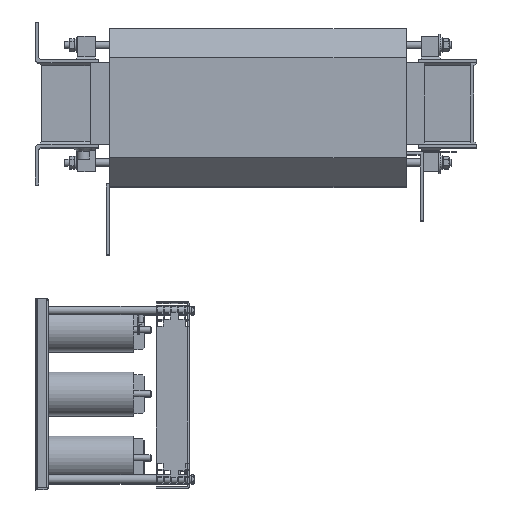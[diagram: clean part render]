
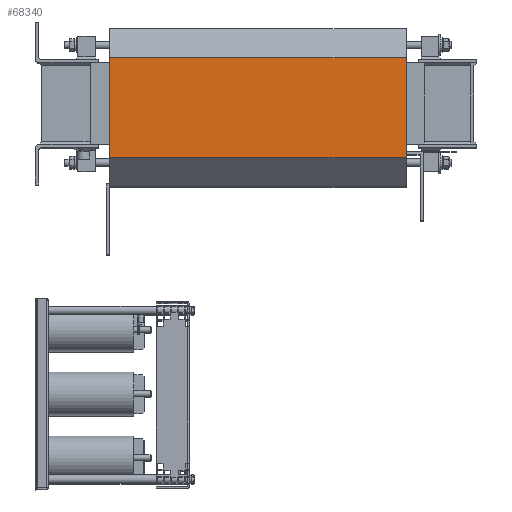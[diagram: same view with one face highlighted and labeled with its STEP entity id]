
A CAD part, top view. The second image highlights one B-rep face of the part: STEP entity #68340.
In plain terms, the highlighted planar face has unit normal (0, 0, 1).
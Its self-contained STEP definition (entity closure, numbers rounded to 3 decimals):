
#7095=LINE('',#111583,#13888);
#7587=LINE('',#112695,#14380);
#7589=LINE('',#112699,#14382);
#7596=LINE('',#112713,#14389);
#13888=VECTOR('',#88300,10.);
#14380=VECTOR('',#89396,10.);
#14382=VECTOR('',#89400,10.);
#14389=VECTOR('',#89419,10.);
#19494=FACE_OUTER_BOUND('',#23846,.T.);
#23846=EDGE_LOOP('',(#57577,#57578,#57579,#57580));
#31435=VERTEX_POINT('',#111580);
#31436=VERTEX_POINT('',#111582);
#31754=VERTEX_POINT('',#112693);
#31755=VERTEX_POINT('',#112697);
#40090=EDGE_CURVE('',#31435,#31436,#7095,.T.);
#40686=EDGE_CURVE('',#31754,#31435,#7587,.T.);
#40688=EDGE_CURVE('',#31436,#31755,#7589,.T.);
#40695=EDGE_CURVE('',#31754,#31755,#7596,.T.);
#57577=ORIENTED_EDGE('',*,*,#40686,.F.);
#57578=ORIENTED_EDGE('',*,*,#40695,.T.);
#57579=ORIENTED_EDGE('',*,*,#40688,.F.);
#57580=ORIENTED_EDGE('',*,*,#40090,.F.);
#61561=PLANE('',#73246);
#68340=ADVANCED_FACE('',(#19494),#61561,.T.);
#73246=AXIS2_PLACEMENT_3D('',#112712,#89417,#89418);
#88300=DIRECTION('',(0.,-1.,0.));
#89396=DIRECTION('',(1.,0.,0.));
#89400=DIRECTION('',(-1.,0.,0.));
#89417=DIRECTION('center_axis',(0.,0.,
1.));
#89418=DIRECTION('ref_axis',(1.,0.,0.));
#89419=DIRECTION('',(0.,-1.,0.));
#111580=CARTESIAN_POINT('',(1240.579,1195.695,1412.924));
#111582=CARTESIAN_POINT('',(1240.579,1023.695,1412.924));
#111583=CARTESIAN_POINT('',(1240.579,1195.695,1412.924));
#112693=CARTESIAN_POINT('',(730.579,1195.695,1412.924));
#112695=CARTESIAN_POINT('',(730.579,1195.695,1412.924));
#112697=CARTESIAN_POINT('',(730.579,1023.695,1412.924));
#112699=CARTESIAN_POINT('',(1240.579,1023.695,1412.924));
#112712=CARTESIAN_POINT('Origin',(985.579,1023.685,1412.924));
#112713=CARTESIAN_POINT('',(730.579,1195.695,1412.924));
